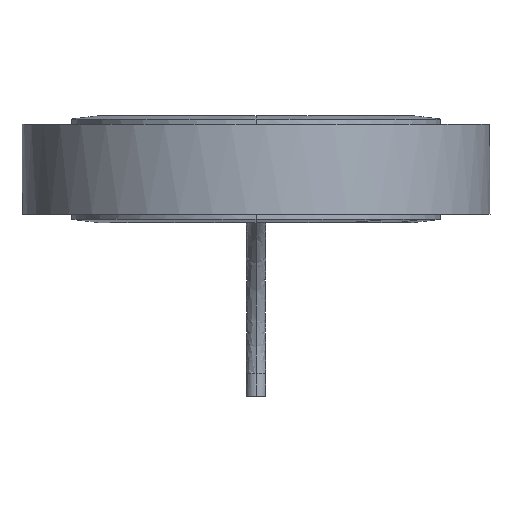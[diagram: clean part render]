
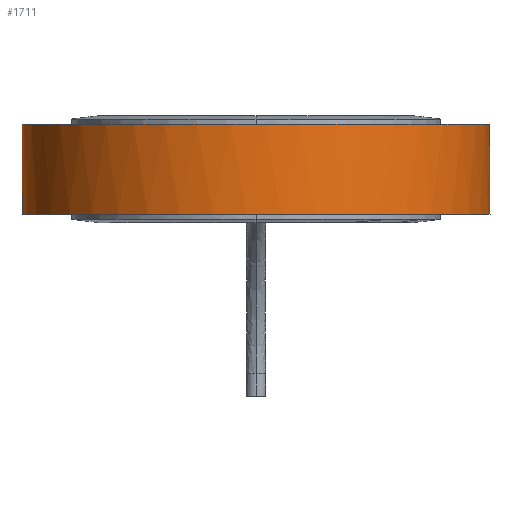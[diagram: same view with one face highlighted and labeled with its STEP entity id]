
A CAD part, front view. The second image highlights one B-rep face of the part: STEP entity #1711.
In plain terms, the highlighted free-form (B-spline) face has degree [11, 1] with [12, 2] control points.
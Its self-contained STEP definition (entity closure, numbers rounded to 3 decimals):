
#110 = CARTESIAN_POINT ( 'NONE',  ( 41.506, 22.004, 7.228 ) ) ;
#144 = EDGE_CURVE ( 'NONE', #2507, #3461, #2775, .T. ) ;
#150 = CARTESIAN_POINT ( 'NONE',  ( -52.275, -3.701, 7.228 ) ) ;
#169 = EDGE_CURVE ( 'NONE', #1407, #2185, #230, .T. ) ;
#230 = B_SPLINE_CURVE_WITH_KNOTS ( 'NONE', 11,
 ( #1091, #2020, #3247, #3817, #1721, #2910, #1111, #3562, #811, #2892, #2213, #698 ),
 .UNSPECIFIED., .F., .F.,
 ( 12, 12 ),
 ( 0., 0.214 ),
 .UNSPECIFIED. ) ;
#275 = ORIENTED_EDGE ( 'NONE', *, *, #3698, .T. ) ;
#365 = VECTOR ( 'NONE', #1951, 1000. ) ;
#371 = CARTESIAN_POINT ( 'NONE',  ( -42.363, -35.251, -6.95 ) ) ;
#399 = CARTESIAN_POINT ( 'NONE',  ( -5.5, 35.628, 6.95 ) ) ;
#434 = CARTESIAN_POINT ( 'NONE',  ( 1.212, 36.03, 7.228 ) ) ;
#698 = CARTESIAN_POINT ( 'NONE',  ( -5.5, 35.628, 6.95 ) ) ;
#764 = CARTESIAN_POINT ( 'NONE',  ( 52.275, -3.726, -7.228 ) ) ;
#774 = CARTESIAN_POINT ( 'NONE',  ( 5.5, 35.628, -6.95 ) ) ;
#781 = CARTESIAN_POINT ( 'NONE',  ( -52.275, -3.701, -7.228 ) ) ;
#811 = CARTESIAN_POINT ( 'NONE',  ( -50.534, -6.863, 6.95 ) ) ;
#913 = CARTESIAN_POINT ( 'NONE',  ( 5.5, 35.628, 6.95 ) ) ;
#1079 = CARTESIAN_POINT ( 'NONE',  ( -41.506, 22.004, -7.228 ) ) ;
#1091 = CARTESIAN_POINT ( 'NONE',  ( 5.5, 35.628, 6.95 ) ) ;
#1111 = CARTESIAN_POINT ( 'NONE',  ( -16.951, -55.254, 6.95 ) ) ;
#1239 = ORIENTED_EDGE ( 'NONE', *, *, #144, .T. ) ;
#1290 = CARTESIAN_POINT ( 'NONE',  ( -5.5, 35.628, 0. ) ) ;
#1314 = CARTESIAN_POINT ( 'NONE',  ( -42.431, 18.08, -6.95 ) ) ;
#1353 = CARTESIAN_POINT ( 'NONE',  ( -41.506, 22.004, 7.228 ) ) ;
#1372 = EDGE_CURVE ( 'NONE', #3461, #1407, #3976, .T. ) ;
#1373 = CARTESIAN_POINT ( 'NONE',  ( 41.506, 22.004, -7.228 ) ) ;
#1401 = CARTESIAN_POINT ( 'NONE',  ( 50.533, -6.874, -6.95 ) ) ;
#1407 = VERTEX_POINT ( 'NONE', #913 ) ;
#1437 = B_SPLINE_SURFACE_WITH_KNOTS ( 'NONE', 11, 1, ( 
 ( #434, #1974 ),
 ( #1693, #2615 ),
 ( #110, #1373 ),
 ( #3824, #764 ),
 ( #3842, #1992 ),
 ( #2878, #2577 ),
 ( #3499, #3533 ),
 ( #2899, #2265 ),
 ( #150, #781 ),
 ( #1353, #1079 ),
 ( #3158, #3805 ),
 ( #2535, #2284 ) ),
 .UNSPECIFIED., .F., .F., .F.,
 ( 12, 12 ),
 ( 2, 2 ),
 ( -3.108, 3.108 ),
 ( 0.417, 14.873 ),
 .UNSPECIFIED. ) ;
#1693 = CARTESIAN_POINT ( 'NONE',  ( 21.572, 35.345, 7.228 ) ) ;
#1711 = ADVANCED_FACE ( 'NONE', ( #3517 ), #1437, .T. ) ;
#1721 = CARTESIAN_POINT ( 'NONE',  ( 42.364, -35.202, 6.95 ) ) ;
#1951 = DIRECTION ( 'NONE',  ( 0., 0., -1. ) ) ;
#1974 = CARTESIAN_POINT ( 'NONE',  ( 1.212, 36.03, -7.228 ) ) ;
#1992 = CARTESIAN_POINT ( 'NONE',  ( 45.352, -34.575, -7.228 ) ) ;
#2020 = CARTESIAN_POINT ( 'NONE',  ( 24.858, 32.639, 6.95 ) ) ;
#2092 = CARTESIAN_POINT ( 'NONE',  ( -5.5, 35.628, -6.95 ) ) ;
#2185 = VERTEX_POINT ( 'NONE', #399 ) ;
#2213 = CARTESIAN_POINT ( 'NONE',  ( -24.858, 32.64, 6.95 ) ) ;
#2265 = CARTESIAN_POINT ( 'NONE',  ( -45.35, -34.652, -7.228 ) ) ;
#2284 = CARTESIAN_POINT ( 'NONE',  ( -1.212, 36.03, -7.228 ) ) ;
#2341 = CARTESIAN_POINT ( 'NONE',  ( -16.951, -55.254, -6.95 ) ) ;
#2464 = CARTESIAN_POINT ( 'NONE',  ( 5.5, 35.628, -6.95 ) ) ;
#2502 = ORIENTED_EDGE ( 'NONE', *, *, #1372, .T. ) ;
#2507 = VERTEX_POINT ( 'NONE', #3610 ) ;
#2535 = CARTESIAN_POINT ( 'NONE',  ( -1.212, 36.03, 7.228 ) ) ;
#2577 = CARTESIAN_POINT ( 'NONE',  ( 18.566, -57.453, -7.228 ) ) ;
#2588 = CARTESIAN_POINT ( 'NONE',  ( 42.364, -35.202, -6.95 ) ) ;
#2615 = CARTESIAN_POINT ( 'NONE',  ( 21.572, 35.345, -7.228 ) ) ;
#2775 = B_SPLINE_CURVE_WITH_KNOTS ( 'NONE', 11,
 ( #2092, #3787, #1314, #3095, #371, #2341, #2930, #2588, #1401, #3874, #3853, #774 ),
 .UNSPECIFIED., .F., .F.,
 ( 12, 12 ),
 ( 0., 0.214 ),
 .UNSPECIFIED. ) ;
#2823 = EDGE_LOOP ( 'NONE', ( #275, #1239, #2502, #3141 ) ) ;
#2878 = CARTESIAN_POINT ( 'NONE',  ( 18.566, -57.453, 7.228 ) ) ;
#2892 = CARTESIAN_POINT ( 'NONE',  ( -42.431, 18.08, 6.95 ) ) ;
#2899 = CARTESIAN_POINT ( 'NONE',  ( -45.35, -34.652, 7.228 ) ) ;
#2910 = CARTESIAN_POINT ( 'NONE',  ( 16.951, -55.336, 6.95 ) ) ;
#2930 = CARTESIAN_POINT ( 'NONE',  ( 16.951, -55.336, -6.95 ) ) ;
#2992 = LINE ( 'NONE', #1290, #365 ) ;
#3044 = DIRECTION ( 'NONE',  ( 0., 0., 1. ) ) ;
#3095 = CARTESIAN_POINT ( 'NONE',  ( -50.534, -6.863, -6.95 ) ) ;
#3115 = VECTOR ( 'NONE', #3044, 1000. ) ;
#3141 = ORIENTED_EDGE ( 'NONE', *, *, #169, .T. ) ;
#3158 = CARTESIAN_POINT ( 'NONE',  ( -21.572, 35.345, 7.228 ) ) ;
#3164 = CARTESIAN_POINT ( 'NONE',  ( 5.5, 35.628, -6.95 ) ) ;
#3247 = CARTESIAN_POINT ( 'NONE',  ( 42.431, 18.078, 6.95 ) ) ;
#3461 = VERTEX_POINT ( 'NONE', #3164 ) ;
#3499 = CARTESIAN_POINT ( 'NONE',  ( -18.567, -57.331, 7.228 ) ) ;
#3517 = FACE_OUTER_BOUND ( 'NONE', #2823, .T. ) ;
#3533 = CARTESIAN_POINT ( 'NONE',  ( -18.567, -57.331, -7.228 ) ) ;
#3562 = CARTESIAN_POINT ( 'NONE',  ( -42.363, -35.251, 6.95 ) ) ;
#3610 = CARTESIAN_POINT ( 'NONE',  ( -5.5, 35.628, -6.95 ) ) ;
#3698 = EDGE_CURVE ( 'NONE', #2185, #2507, #2992, .T. ) ;
#3787 = CARTESIAN_POINT ( 'NONE',  ( -24.858, 32.64, -6.95 ) ) ;
#3805 = CARTESIAN_POINT ( 'NONE',  ( -21.572, 35.345, -7.228 ) ) ;
#3817 = CARTESIAN_POINT ( 'NONE',  ( 50.533, -6.874, 6.95 ) ) ;
#3824 = CARTESIAN_POINT ( 'NONE',  ( 52.275, -3.726, 7.228 ) ) ;
#3842 = CARTESIAN_POINT ( 'NONE',  ( 45.352, -34.575, 7.228 ) ) ;
#3853 = CARTESIAN_POINT ( 'NONE',  ( 24.858, 32.639, -6.95 ) ) ;
#3874 = CARTESIAN_POINT ( 'NONE',  ( 42.431, 18.078, -6.95 ) ) ;
#3976 = LINE ( 'NONE', #2464, #3115 ) ;
